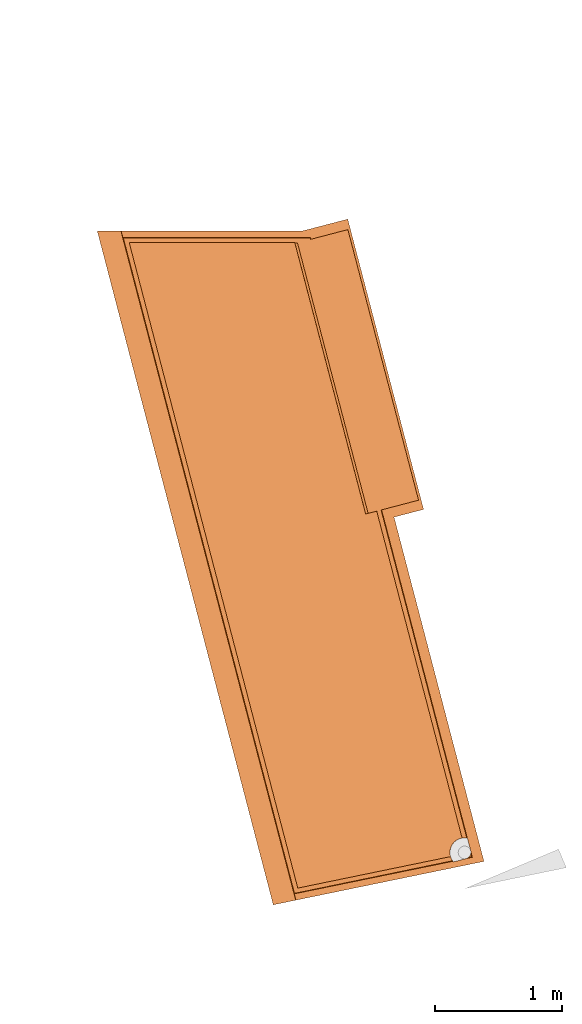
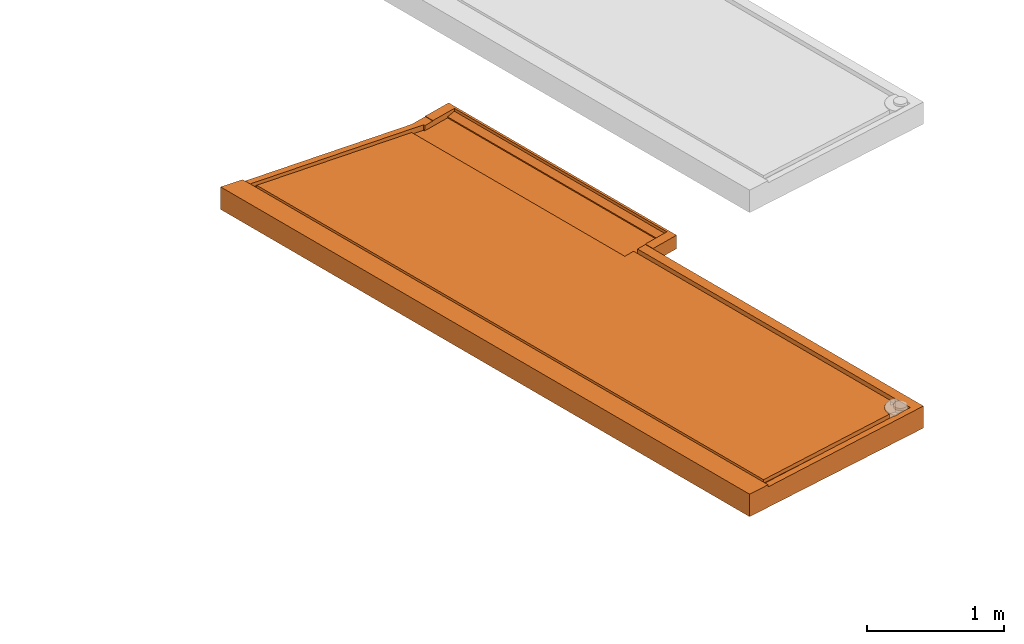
# One storey, part 18 of 31: 1 proxy, 1 element without a shape of its own.
"""IFC2X3 building model written with IfcOpenShell, lengths in centimetres."""

from ifc_helpers import new_model, entity, si_unit, converted_unit, derived_unit, direction, frame, origin, place, context, subcontext, project, spatial, faceted_brep, source, transform, mapped, material, type_object, type_shapes, element, aggregate, save


model = new_model("IFC2X3")

# Units and contexts
model_context = context("Model", 3, precision=0.001, world=origin(), true_north=direction((6.12303176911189e-17, 1.0)))
body_context = subcontext(model_context, "Body", "Model", "MODEL_VIEW")
ifc_project = project(units=[si_unit("LENGTHUNIT", "METRE", prefix="CENTI"), si_unit("AREAUNIT", "SQUARE_METRE"), si_unit("VOLUMEUNIT", "CUBIC_METRE"), converted_unit("PLANEANGLEUNIT", "DEGREE", entity("IfcRatioMeasure", 0.0174532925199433), si_unit("PLANEANGLEUNIT", "RADIAN"), dimensions=[0, 0, 0, 0, 0, 0, 0]), si_unit("MASSUNIT", "GRAM", prefix="KILO"), derived_unit("MASSDENSITYUNIT", [(si_unit("MASSUNIT", "GRAM", prefix="KILO"), 1), (si_unit("LENGTHUNIT", "METRE"), -3)]), si_unit("TIMEUNIT", "SECOND"), si_unit("FREQUENCYUNIT", "HERTZ"), si_unit("THERMODYNAMICTEMPERATUREUNIT", "DEGREE_CELSIUS"), derived_unit("THERMALTRANSMITTANCEUNIT", [(si_unit("MASSUNIT", "GRAM", prefix="KILO"), 1), (si_unit("THERMODYNAMICTEMPERATUREUNIT", "KELVIN"), -1), (si_unit("TIMEUNIT", "SECOND"), -3)]), derived_unit("VOLUMETRICFLOWRATEUNIT", [(si_unit("LENGTHUNIT", "METRE"), 3), (si_unit("TIMEUNIT", "SECOND"), -1)]), si_unit("ELECTRICCURRENTUNIT", "AMPERE"), si_unit("ELECTRICVOLTAGEUNIT", "VOLT"), si_unit("POWERUNIT", "WATT"), si_unit("FORCEUNIT", "NEWTON"), si_unit("ILLUMINANCEUNIT", "LUX"), si_unit("LUMINOUSFLUXUNIT", "LUMEN"), si_unit("LUMINOUSINTENSITYUNIT", "CANDELA"), derived_unit("USERDEFINED", [(si_unit("MASSUNIT", "GRAM", prefix="KILO"), -1), (si_unit("LENGTHUNIT", "METRE"), -2), (si_unit("TIMEUNIT", "SECOND"), 3), (si_unit("LUMINOUSFLUXUNIT", "LUMEN"), 1)]), derived_unit("LINEARVELOCITYUNIT", [(si_unit("LENGTHUNIT", "METRE"), 1), (si_unit("TIMEUNIT", "SECOND"), -1)]), si_unit("PRESSUREUNIT", "PASCAL"), derived_unit("USERDEFINED", [(si_unit("LENGTHUNIT", "METRE"), -2), (si_unit("MASSUNIT", "GRAM", prefix="KILO"), 1), (si_unit("TIMEUNIT", "SECOND"), -2)])], contexts=[model_context])

# Site, building, storey
site_placement = place(None, origin())
site = spatial("IfcSite", under=ifc_project, at=site_placement, Name="Default", CompositionType="ELEMENT")
building_placement = place(site_placement, origin())
building = spatial("IfcBuilding", under=site, at=building_placement, Name="CAGE 03", CompositionType="ELEMENT")
storey_placement = place(building_placement, frame((0.0, 0.0, -400.0)))
storey = spatial("IfcBuildingStorey", under=building, at=storey_placement, Name="±0.00", CompositionType="ELEMENT", Elevation=-400.0)

# Assembly, proxy
assembly_placement = place(storey_placement, origin())
assembly = element("IfcElementAssembly", 1, at=assembly_placement, inside=storey, Name="Assemblage Modèles génériques:BALCON TYPE 08", ObjectType="Assemblage Modèles génériques:BALCON TYPE 08", AssemblyPlace="NOTDEFINED", PredefinedType="USERDEFINED")
ifc_material = material(Name="Béton, panneaux préfa 30/37")
building_element_proxy_type = type_object("IfcBuildingElementProxyType", Name="balcon préfa type 08", PredefinedType="NOTDEFINED", material=ifc_material)
shared_shape = source(origin(), body_context, "Body", "Brep", [
    faceted_brep([(20.4758153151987, 524.485602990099, 15.0), (155.098310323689, 8.99505016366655, 15.0), (279.438582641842, 34.6220777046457, 15.0), (278.506028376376, 36.2117170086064, 15.0), (277.839385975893, 37.9299132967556, 15.0), (157.690873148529, 13.1668241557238, 15.0), (25.0882306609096, 520.923046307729, 15.0), (155.314060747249, 520.923046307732, 15.0), (155.482713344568, 520.277249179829, 15.0), (157.417813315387, 520.78260855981, 15.0), (213.007345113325, 307.921611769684, 15.0), (219.780195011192, 309.690369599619, 15.0), (286.932279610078, 52.5545528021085, 15.0), (288.768321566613, 52.7168337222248, 15.0), (290.606706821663, 52.583699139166, 15.0), (223.22714667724, 310.590555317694, 15.0), (245.904044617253, 316.512721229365, 15.0), (190.314512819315, 529.373718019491, 15.0), (167.637614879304, 523.45155210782, 15.0), (167.367568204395, 524.485602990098, 15.0), (293.790835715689, 40.3911724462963, 15.0), (293.414285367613, 39.1546032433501, 15.0), (292.733315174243, 38.0558889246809, 15.0), (291.793438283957, 37.1684628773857, 15.0), (294.487454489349, 37.7237103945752, 15.0), (155.508647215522, 520.284021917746, 16.9000788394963), (155.484457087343, 520.277704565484, 19.3999538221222), (211.073988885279, 307.416707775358, 19.3999538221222), (211.09817901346, 307.42302512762, 16.9000788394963), (245.904044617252, 316.512721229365, 15.9713250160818), (223.610570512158, 310.690688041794, 19.5295380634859), (229.455694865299, 312.217166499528, 19.589956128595), (231.390794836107, 312.722525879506, 19.6099582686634), (231.390794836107, 312.722525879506, 20.0), (252.676894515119, 318.2814790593, 20.0), (252.676894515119, 318.2814790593, 17.4999999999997), (219.78019501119, 309.690369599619, 19.4899454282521), (213.007345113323, 307.921611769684, 16.9198129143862), (197.087362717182, 531.142475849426, 17.4999999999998), (197.087362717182, 531.142475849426, 20.0), (175.801263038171, 525.583522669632, 20.0), (175.801263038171, 525.583522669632, 19.6099582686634), (173.866163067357, 525.078163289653, 19.589956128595), (168.021038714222, 523.551684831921, 19.5295380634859), (190.314512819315, 529.373718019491, 15.9713250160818), (157.690873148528, 13.1668241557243, 18.1398009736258), (277.839385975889, 37.9299132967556, 19.3650002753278), (291.500713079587, 36.9717037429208, 16.5272701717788), (291.194845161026, 36.7960705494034, 17.7877166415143), (290.877356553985, 36.6424372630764, 18.7750673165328), (290.549827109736, 36.5115683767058, 19.4844090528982), (294.976378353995, 37.4198670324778, 19.5295380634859), (154.900847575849, 8.67730667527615, 18.1014578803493), (279.685784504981, 34.282339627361, 19.3736493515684), (279.560631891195, 34.4510796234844, 17.1958838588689), (3.88407743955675, 526.923046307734, 0.0), (3.88407743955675, 526.923046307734, 1.0), (140.574776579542, 3.51301694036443, 1.0), (140.574776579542, 3.51301694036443, 0.0), (5.1787699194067, 525.923046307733, 1.46630765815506), (141.302501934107, 4.68402258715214, 1.46630765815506), (157.417813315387, 520.78260855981, 16.9198129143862), (20.1245103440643, 524.756945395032, 18.1014578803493), (18.7753616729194, 529.923046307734, 18.1014578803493), (18.6036900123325, 529.923046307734, 20.0), (156.045092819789, 3.63845538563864, 20.0), (156.207996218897, 3.67203042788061, 18.1014578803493), (5.1787699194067, 525.923046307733, 0.0), (141.302501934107, 4.68402258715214, 0.0), (0.0, 529.923046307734, 20.0), (0.0, 529.923046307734, 0.0), (138.391600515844, 0.0, 0.0), (138.391600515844, 0.0, 20.0), (286.932279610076, 52.5545528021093, 19.4899454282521), (173.779825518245, 533.32392255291, 20.0), (174.406824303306, 530.923046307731, 20.0), (233.412232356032, 304.982125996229, 20.0), (248.893032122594, 309.025001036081, 20.0), (256.633432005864, 311.046438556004, 20.0), (197.001025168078, 539.388235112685, 20.0), (189.260625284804, 537.366797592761, 20.0), (197.001025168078, 539.388235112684, 8.0), (256.633432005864, 311.046438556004, 8.0), (189.260625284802, 537.36679759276, 8.0), (248.893032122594, 309.025001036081, 8.0), (233.412232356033, 304.982125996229, 8.0), (174.406824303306, 530.923046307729, 8.0), (173.779825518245, 533.32392255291, 8.0), (233.412232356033, 304.982125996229, 19.6099582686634), (304.138278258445, 34.1610533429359, 19.6099582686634), (304.138278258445, 34.1610533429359, 0.0), (303.379205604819, 37.0676610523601, 0.0), (303.379205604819, 37.0676610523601, 1.0), (303.126181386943, 38.0365302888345, 1.46630765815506), (303.126181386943, 38.0365302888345, 0.0), (174.790544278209, 529.453722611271, 0.0), (174.790544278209, 529.453722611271, 1.46630765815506), (174.537864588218, 530.421272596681, 1.0), (174.537864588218, 530.421272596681, 0.0), (174.406824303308, 530.923046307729, 0.0), (173.779825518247, 533.32392255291, 0.0), (172.602764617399, 529.915913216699, 0.0), (161.142609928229, 526.923046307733, 0.0), (301.417706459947, 36.6633882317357, 0.0), (302.176779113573, 33.7567805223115, 0.0), (160.75733937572, 529.923046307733, 0.0), (287.596140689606, 46.0549454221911, 0.0), (172.85544430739, 528.94836323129, 0.0), (288.891291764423, 46.2170946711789, 0.0), (290.184278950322, 46.0385090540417, 0.0), (291.386987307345, 45.5313588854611, 0.0), (292.417454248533, 44.7302056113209, 0.0), (293.205455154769, 43.6896465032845, 0.0), (293.697289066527, 42.4805939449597, 0.0), (301.164682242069, 37.6322574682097, 0.0), (293.859438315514, 41.1854428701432, 0.0), (293.680852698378, 39.8924556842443, 0.0), (293.173702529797, 38.6897473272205, 0.0), (292.372549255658, 37.6592803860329, 0.0), (291.331990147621, 36.8712794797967, 0.0), (290.122937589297, 36.3794455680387, 0.0), (288.82778651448, 36.2172963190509, 0.0), (287.53479932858, 36.3958819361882, 0.0), (286.332090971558, 36.9030321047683, 0.0), (285.30162403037, 37.704185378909, 0.0), (284.513623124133, 38.7447444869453, 0.0), (284.021789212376, 39.9537970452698, 0.0), (283.859639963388, 41.2489481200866, 0.0), (284.038225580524, 42.5419353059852, 0.0), (284.545375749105, 43.7446436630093, 0.0), (285.346529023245, 44.7751106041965, 0.0), (286.387088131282, 45.5631115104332, 0.0), (161.271033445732, 525.923046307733, 0.0), (25.0882306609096, 520.923046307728, 18.1398009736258), (277.372859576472, 40.6638487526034, 19.3673947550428), (277.574432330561, 43.4299684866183, 19.3763354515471), (278.432380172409, 46.0673868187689, 19.3913023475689), (279.896802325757, 48.4227037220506, 19.4114249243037), (281.882523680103, 50.3589270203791, 19.4355327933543), (284.274048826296, 51.7634402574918, 19.4622237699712), (155.314060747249, 520.923046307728, 19.3999357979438), (167.673651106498, 524.881886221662, 19.5295380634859), (174.406824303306, 530.923046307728, 19.6099582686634), (173.779825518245, 533.32392255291, 19.6099582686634), (160.75733937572, 529.923046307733, 19.4753514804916), (291.03567805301, 52.5094237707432, 19.5295380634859), (291.058092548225, 52.5050811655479, 19.5297439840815), (291.080498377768, 52.5006940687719, 19.5299497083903), (293.697289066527, 42.4805939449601, 19.5299497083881), (293.768377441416, 42.1676198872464, 19.5298466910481), (293.819240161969, 41.850729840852, 19.5295380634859), (290.337859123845, 36.4407355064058, 19.4821789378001), (290.1229375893, 36.3794455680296, 19.4799443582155), (280.102837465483, 33.7626548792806, 19.376371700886), (279.890546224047, 34.019475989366, 19.3749664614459), (302.176779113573, 33.7567805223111, 19.589956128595), (290.714125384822, 52.5661453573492, 16.1372598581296), (290.821543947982, 52.5485915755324, 17.2745197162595), (290.928611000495, 52.529007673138, 18.4020288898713), (290.982144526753, 52.5192157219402, 18.9657834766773), (291.008911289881, 52.5143197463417, 19.2476607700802), (293.852306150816, 41.4860403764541, 18.8419447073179), (293.858592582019, 41.1199089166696, 17.8540276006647), (293.838065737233, 40.7542992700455, 16.571085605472), (301.417706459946, 36.6633882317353, 1.0), (301.164682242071, 37.6322574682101, 1.46630765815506), (161.142609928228, 526.923046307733, 1.0), (161.271033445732, 525.923046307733, 1.46630765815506), (172.602764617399, 529.9159132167, 1.0), (172.85544430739, 528.94836323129, 1.46630765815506), (288.253873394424, 52.7012352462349, 7.69999999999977), (285.464023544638, 52.2044824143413, 7.69999999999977), (282.880344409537, 51.0405976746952, 7.69999999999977), (280.659713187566, 49.2802503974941, 7.69999999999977), (278.936963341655, 47.030326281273, 7.69999999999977), (277.816697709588, 44.4274374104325, 7.69999999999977), (277.366937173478, 41.6296273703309, 7.69999999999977), (277.614990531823, 38.8067750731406, 7.69999999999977), (278.545796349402, 36.1302799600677, 7.69999999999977), (280.102837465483, 33.762654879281, 7.69999999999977), (290.122937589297, 36.37944556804, 7.69999999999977), (288.827786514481, 36.2172963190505, 7.69999999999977), (287.534799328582, 36.3958819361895, 7.69999999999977), (286.332090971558, 36.9030321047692, 7.69999999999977), (285.30162403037, 37.7041853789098, 7.69999999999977), (284.513623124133, 38.7447444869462, 7.69999999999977), (284.021789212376, 39.9537970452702, 7.69999999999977), (283.859639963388, 41.2489481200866, 7.69999999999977), (284.038225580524, 42.5419353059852, 7.69999999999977), (284.545375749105, 43.7446436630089, 7.69999999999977), (285.346529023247, 44.7751106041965, 7.69999999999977), (286.387088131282, 45.5631115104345, 7.69999999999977), (287.596140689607, 46.0549454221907, 7.69999999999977), (288.891291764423, 46.2170946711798, 7.69999999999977), (290.184278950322, 46.0385090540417, 7.69999999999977), (291.386987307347, 45.5313588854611, 7.69999999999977), (292.417454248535, 44.7302056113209, 7.69999999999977), (293.205455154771, 43.6896465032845, 7.69999999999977), (293.697289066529, 42.480593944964, 7.69999999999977), (291.080498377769, 52.5006940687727, 7.69999999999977), (291.080498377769, 52.5006940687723, 19.1602655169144), (291.080498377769, 52.5006940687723, 18.7905813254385), (291.080498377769, 52.5006940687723, 18.0512059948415), (291.080498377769, 52.5006940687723, 16.5724622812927), (291.080498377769, 52.5006940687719, 15.0937185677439), (291.080498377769, 52.5006940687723, 13.614974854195), (280.102837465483, 33.7626548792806, 16.4572787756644), (280.102837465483, 33.7626548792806, 13.5381858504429)], [[[0, 1, 2, 3, 4, 5, 6, 7, 8, 9, 10, 11, 12, 13, 14, 15, 16, 17, 18, 19]], [[20, 21, 22, 23, 24]], [[25, 26, 27, 28]], [[29, 16, 15, 30, 31, 32, 33, 34, 35]], [[36, 11, 10, 37, 28, 27]], [[38, 39, 40, 41, 42, 43, 18, 17, 44]], [[45, 5, 4, 46]], [[23, 47, 48, 49, 50, 51, 24]], [[1, 52, 53, 54, 2]], [[55, 56, 57, 58]], [[59, 60, 57, 56]], [[9, 61, 37, 10]], [[52, 1, 0, 62, 63, 64, 65, 66]], [[59, 67, 68, 60]], [[69, 70, 71, 72]], [[73, 12, 11, 36]], [[38, 44, 29, 35]], [[44, 17, 16, 29]], [[39, 38, 35, 34]], [[74, 75, 40, 39, 34, 33, 76, 77, 78, 79, 80]], [[72, 65, 64, 69]], [[81, 79, 78, 82]], [[83, 81, 82, 84, 85, 86, 87]], [[87, 86, 85, 88, 89, 90, 91, 92, 93, 94, 95, 96, 97, 98, 99, 100]], [[101, 102, 55, 58, 103, 91, 90, 104, 71, 70, 105, 100, 99, 98]], [[101, 100, 99]], [[101, 99, 98]], [[101, 105, 100]], [[102, 105, 101]], [[55, 105, 102]], [[55, 70, 105]], [[70, 55, 71]], [[58, 71, 55]], [[58, 104, 71]], [[104, 58, 103]], [[91, 104, 103]], [[91, 90, 104]], [[95, 106, 107]], [[106, 95, 108]], [[109, 108, 95]], [[110, 109, 95]], [[110, 95, 94]], [[94, 111, 110]], [[112, 111, 94]], [[113, 112, 94]], [[114, 113, 94]], [[115, 113, 114]], [[115, 114, 116]], [[114, 117, 116]], [[118, 117, 114]], [[114, 119, 118]], [[120, 119, 114]], [[120, 114, 121]], [[114, 68, 121]], [[122, 121, 68]], [[123, 122, 68]], [[124, 123, 68]], [[124, 68, 125]], [[126, 125, 68]], [[68, 127, 126]], [[127, 68, 128]], [[129, 128, 68]], [[129, 68, 130]], [[130, 68, 131]], [[68, 132, 131]], [[132, 68, 67]], [[107, 106, 132]], [[131, 132, 106]], [[133, 45, 46, 134, 135, 136, 137, 138, 139, 73, 36, 27, 26, 140]], [[63, 62, 141, 43, 42, 41, 142, 143, 144]], [[88, 32, 31, 30, 145, 146, 147, 148, 149, 150, 51, 50, 151, 152, 153, 154, 53, 52, 66, 155, 89]], [[61, 25, 28, 37]], [[133, 6, 5, 45]], [[14, 156, 157, 158, 159, 160, 145, 30, 15]], [[43, 141, 19, 18]], [[51, 150, 161, 162, 163, 20, 24]], [[69, 64, 63, 144, 105, 70]], [[90, 89, 155, 66, 65, 72, 71, 104]], [[76, 33, 32, 88]], [[75, 74, 143, 142, 41, 40]], [[80, 79, 81, 83, 87, 100, 105, 144, 143, 74]], [[91, 103, 58, 57, 164, 92]], [[165, 60, 68, 114, 94, 93]], [[164, 57, 60, 165, 93, 92]], [[102, 166, 56, 55]], [[167, 132, 67, 59]], [[166, 167, 59, 56]], [[168, 166, 102, 101, 98, 97]], [[107, 132, 167, 169, 96, 95]], [[166, 168, 97, 96, 169, 167]], [[7, 6, 133, 140]], [[141, 62, 0, 19]], [[8, 140, 26]], [[140, 8, 7]], [[9, 8, 26, 25, 61]], [[77, 76, 88, 85, 84, 82, 78]], [[170, 171, 172, 173, 174, 175, 176, 177, 178, 179, 180, 181, 182, 183, 184, 185, 186, 187, 188, 189, 190, 191, 192, 193, 194, 195, 196, 197, 198, 199]], [[148, 147, 200, 201, 202, 203, 204, 205, 199, 198]], [[13, 170, 199]], [[146, 145, 160]], [[13, 205, 14]], [[13, 12, 170]], [[156, 203, 157]], [[172, 171, 139]], [[171, 12, 139]], [[170, 12, 171]], [[138, 173, 172]], [[201, 200, 159]], [[201, 158, 202]], [[205, 13, 199]], [[138, 172, 139]], [[139, 12, 73]], [[138, 137, 173]], [[160, 159, 200]], [[137, 174, 173]], [[175, 135, 176]], [[174, 136, 175]], [[177, 176, 134]], [[2, 178, 3]], [[203, 202, 157]], [[178, 4, 3]], [[2, 179, 178]], [[177, 4, 178]], [[134, 4, 177]], [[14, 204, 156]], [[46, 4, 134]], [[160, 200, 146]], [[135, 175, 136]], [[54, 206, 2]], [[134, 176, 135]], [[207, 179, 2, 206]], [[158, 157, 202]], [[54, 53, 154]], [[206, 54, 154]], [[203, 156, 204]], [[206, 154, 153]], [[147, 146, 200]], [[14, 205, 204]], [[159, 158, 201]], [[137, 136, 174]], [[180, 179, 207, 206, 153, 152]], [[111, 112, 197, 196]], [[111, 196, 195, 110]], [[108, 109, 194, 193]], [[195, 194, 109, 110]], [[106, 108, 193, 192]], [[113, 198, 197, 112]], [[130, 131, 191, 190]], [[130, 190, 189, 129]], [[127, 128, 188, 187]], [[189, 188, 128, 129]], [[126, 127, 187, 186]], [[192, 191, 131, 106]], [[125, 185, 184, 124]], [[126, 186, 185, 125]], [[121, 122, 182, 181]], [[123, 124, 184, 183]], [[123, 183, 182, 122]], [[181, 180, 120, 121]], [[50, 49, 180]], [[180, 49, 48]], [[152, 151, 180]], [[50, 180, 151]], [[119, 120, 180]], [[23, 118, 119]], [[118, 23, 22]], [[22, 117, 118]], [[47, 23, 119]], [[198, 113, 115]], [[116, 117, 21]], [[116, 20, 115]], [[22, 21, 117]], [[115, 161, 198]], [[116, 21, 20]], [[119, 48, 47]], [[20, 163, 115]], [[161, 115, 162]], [[161, 150, 198]], [[162, 115, 163]], [[150, 149, 198]], [[198, 149, 148]], [[180, 48, 119]]]),
])
type_shapes(building_element_proxy_type, [shared_shape])
proxy_placement = place(assembly_placement, frame((10497.2854867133, 3265.73761976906, 990.0)))
proxy = element("IfcBuildingElementProxy", 2, at=proxy_placement, type_object=building_element_proxy_type, material=ifc_material, Name="BY_STR_Balcon_préfa_08:balcon préfa type 08", ObjectType="balcon préfa type 08", context=body_context, shape_type="MappedRepresentation", body=[
    mapped(shared_shape, transform((0.0, 0.0, 0.0), scale=1.0)),
])
aggregate(assembly, [proxy])

save(model, "model.ifc")
